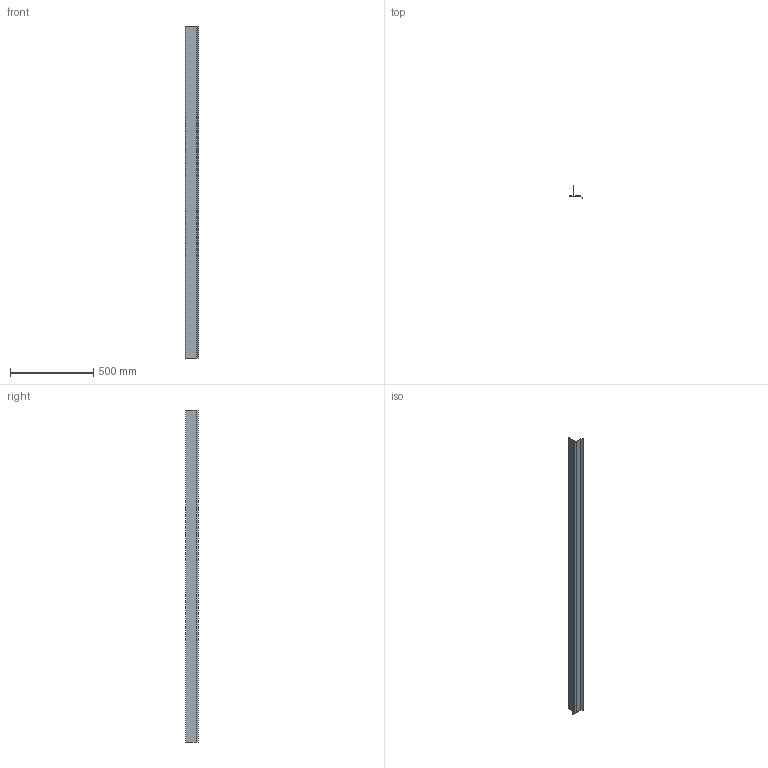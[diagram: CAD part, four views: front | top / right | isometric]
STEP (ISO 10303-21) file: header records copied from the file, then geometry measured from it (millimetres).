
FILE_DESCRIPTION (( 'STEP AP203' ), '1' );
FILE_NAME ('M56C.STEP', '2018-06-19T13:20:53', ( 'Michael Moliner' ), ( '' ), 'SwSTEP 2.0', 'SolidWorks 2018', '' );
FILE_SCHEMA (( 'CONFIG_CONTROL_DESIGN' ));
Length unit declared in the file: inch
Products named in the file (2): M56C
Bounding box: 79.72 x 75.83 x 2000 mm (x, y, z)
Volume: 222528.9 mm3; surface area: 878352.7 mm2
Topology: 1 solids, 1 shells, 27 faces, 75 edges, 50 vertices
Faces by surface type: plane 16, cylinder 11
Entity records: 1028 total; most frequent: DIRECTION 155, CARTESIAN_POINT 154, ORIENTED_EDGE 150, EDGE_CURVE 75, LINE 53, VECTOR 53, AXIS2_PLACEMENT_3D 51, VERTEX_POINT 50
